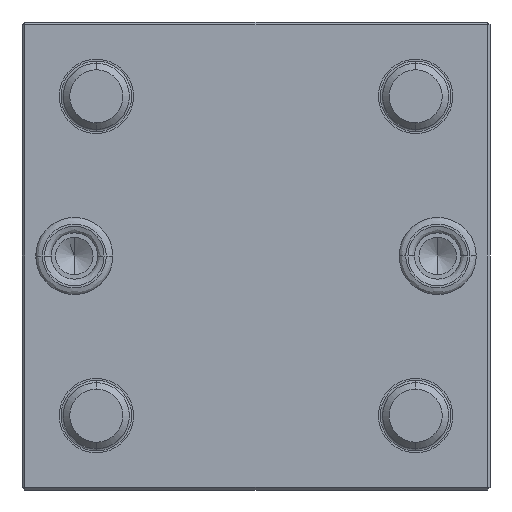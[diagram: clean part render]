
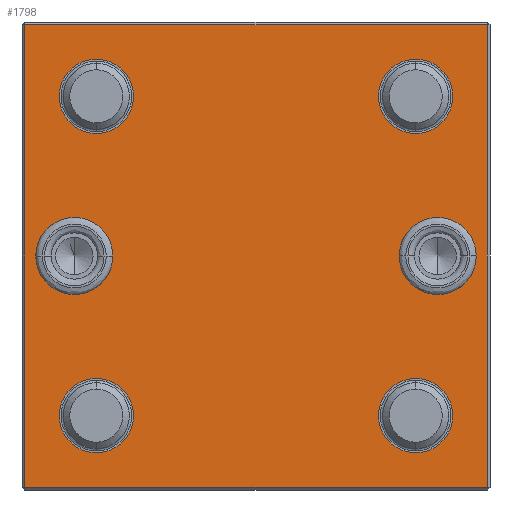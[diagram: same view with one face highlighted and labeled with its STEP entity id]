
A CAD part, front view. The second image highlights one B-rep face of the part: STEP entity #1798.
In plain terms, the highlighted planar face has unit normal (0, -1, 0).
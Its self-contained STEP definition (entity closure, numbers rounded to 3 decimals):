
#18 = CARTESIAN_POINT ( 'NONE',  ( 71.5, -15., 35.75 ) ) ;
#76 = VERTEX_POINT ( 'NONE', #6304 ) ;
#108 = VECTOR ( 'NONE', #4587, 1000. ) ;
#178 = ORIENTED_EDGE ( 'NONE', *, *, #3403, .T. ) ;
#221 = CIRCLE ( 'NONE', #972, 7. ) ;
#249 = CARTESIAN_POINT ( 'NONE',  ( 13.5, -15., 29. ) ) ;
#314 = DIRECTION ( 'NONE',  ( 0., 0., -1. ) ) ;
#383 = LINE ( 'NONE', #1085, #3954 ) ;
#423 = EDGE_LOOP ( 'NONE', ( #1466, #6946 ) ) ;
#483 = PLANE ( 'NONE',  #2465 ) ;
#506 = DIRECTION ( 'NONE',  ( 0., -1., 0. ) ) ;
#670 = CARTESIAN_POINT ( 'NONE',  ( 71.5, -15., 29. ) ) ;
#749 = CARTESIAN_POINT ( 'NONE',  ( 71.5, -15., -29. ) ) ;
#817 = CIRCLE ( 'NONE', #7178, 6.75 ) ;
#968 = DIRECTION ( 'NONE',  ( 0., 0., 1. ) ) ;
#972 = AXIS2_PLACEMENT_3D ( 'NONE', #4703, #506, #5421 ) ;
#1085 = CARTESIAN_POINT ( 'NONE',  ( 0.5, -15., -42.5 ) ) ;
#1125 = AXIS2_PLACEMENT_3D ( 'NONE', #249, #5188, #968 ) ;
#1233 = VERTEX_POINT ( 'NONE', #3576 ) ;
#1262 = CARTESIAN_POINT ( 'NONE',  ( 71.5, -15., 29. ) ) ;
#1278 = ORIENTED_EDGE ( 'NONE', *, *, #3146, .T. ) ;
#1358 = VERTEX_POINT ( 'NONE', #5187 ) ;
#1384 = DIRECTION ( 'NONE',  ( 0., 0., 1. ) ) ;
#1466 = ORIENTED_EDGE ( 'NONE', *, *, #4479, .F. ) ;
#1467 = DIRECTION ( 'NONE',  ( 0., 0., 1. ) ) ;
#1519 = AXIS2_PLACEMENT_3D ( 'NONE', #3246, #7793, #3928 ) ;
#1586 = VECTOR ( 'NONE', #7225, 1000. ) ;
#1675 = ORIENTED_EDGE ( 'NONE', *, *, #5252, .T. ) ;
#1712 = CIRCLE ( 'NONE', #4030, 7. ) ;
#1798 = ADVANCED_FACE ( 'NONE', ( #8263, #7476, #8161, #8381, #7592, #8188, #8149 ), #483, .F. ) ;
#1799 = CARTESIAN_POINT ( 'NONE',  ( 84.5, -15., 42.5 ) ) ;
#1858 = CIRCLE ( 'NONE', #6944, 6.75 ) ;
#1943 = ORIENTED_EDGE ( 'NONE', *, *, #3111, .T. ) ;
#2021 = DIRECTION ( 'NONE',  ( 0., 0., 1. ) ) ;
#2046 = VERTEX_POINT ( 'NONE', #3030 ) ;
#2049 = CARTESIAN_POINT ( 'NONE',  ( 9.5, -15., -7. ) ) ;
#2145 = VERTEX_POINT ( 'NONE', #5044 ) ;
#2155 = CARTESIAN_POINT ( 'NONE',  ( 9.5, -15., 7. ) ) ;
#2179 = CARTESIAN_POINT ( 'NONE',  ( 13.5, -15., -29. ) ) ;
#2212 = CARTESIAN_POINT ( 'NONE',  ( 9.5, -15., 0. ) ) ;
#2281 = DIRECTION ( 'NONE',  ( 0., 1., 0. ) ) ;
#2394 = CARTESIAN_POINT ( 'NONE',  ( 13.5, -15., -29. ) ) ;
#2465 = AXIS2_PLACEMENT_3D ( 'NONE', #3371, #7909, #4055 ) ;
#2540 = LINE ( 'NONE', #1799, #6094 ) ;
#2573 = DIRECTION ( 'NONE',  ( 0., 0., -1. ) ) ;
#2597 = CARTESIAN_POINT ( 'NONE',  ( 85., -15., 42. ) ) ;
#2640 = DIRECTION ( 'NONE',  ( 0., -1., 0. ) ) ;
#2704 = ORIENTED_EDGE ( 'NONE', *, *, #3191, .T. ) ;
#2709 = EDGE_CURVE ( 'NONE', #76, #7480, #817, .T. ) ;
#2793 = EDGE_CURVE ( 'NONE', #7480, #76, #1858, .T. ) ;
#2800 = CARTESIAN_POINT ( 'NONE',  ( 13.5, -15., -35.75 ) ) ;
#2882 = DIRECTION ( 'NONE',  ( 0., 0., 1. ) ) ;
#2896 = EDGE_CURVE ( 'NONE', #7768, #8483, #6198, .T. ) ;
#2903 = DIRECTION ( 'NONE',  ( 0., 0., -1. ) ) ;
#2971 = EDGE_CURVE ( 'NONE', #6676, #1233, #5659, .T. ) ;
#3030 = CARTESIAN_POINT ( 'NONE',  ( 75.5, -15., -7. ) ) ;
#3110 = DIRECTION ( 'NONE',  ( 0., 0., 1. ) ) ;
#3111 = EDGE_CURVE ( 'NONE', #7038, #6703, #2540, .T. ) ;
#3135 = EDGE_CURVE ( 'NONE', #2145, #5979, #383, .T. ) ;
#3146 = EDGE_CURVE ( 'NONE', #5979, #7038, #7596, .T. ) ;
#3191 = EDGE_CURVE ( 'NONE', #6703, #2145, #6976, .T. ) ;
#3195 = ORIENTED_EDGE ( 'NONE', *, *, #2896, .T. ) ;
#3246 = CARTESIAN_POINT ( 'NONE',  ( 13.5, -15., 29. ) ) ;
#3371 = CARTESIAN_POINT ( 'NONE',  ( 85., -15., 42.5 ) ) ;
#3376 = EDGE_CURVE ( 'NONE', #1233, #6676, #7074, .T. ) ;
#3391 = EDGE_CURVE ( 'NONE', #6835, #6257, #1712, .T. ) ;
#3403 = EDGE_CURVE ( 'NONE', #8483, #7768, #5204, .T. ) ;
#3416 = CARTESIAN_POINT ( 'NONE',  ( 0.5, -15., -42. ) ) ;
#3576 = CARTESIAN_POINT ( 'NONE',  ( 13.5, -15., -22.25 ) ) ;
#3623 = EDGE_CURVE ( 'NONE', #4103, #1358, #5096, .T. ) ;
#3714 = EDGE_CURVE ( 'NONE', #6058, #2046, #221, .T. ) ;
#3737 = CARTESIAN_POINT ( 'NONE',  ( 71.5, -15., -35.75 ) ) ;
#3928 = DIRECTION ( 'NONE',  ( 0., 0., 1. ) ) ;
#3933 = AXIS2_PLACEMENT_3D ( 'NONE', #749, #5663, #1467 ) ;
#3954 = VECTOR ( 'NONE', #2573, 1000. ) ;
#4011 = ORIENTED_EDGE ( 'NONE', *, *, #5414, .F. ) ;
#4030 = AXIS2_PLACEMENT_3D ( 'NONE', #2212, #6839, #2903 ) ;
#4055 = DIRECTION ( 'NONE',  ( 0., 0., 1. ) ) ;
#4093 = AXIS2_PLACEMENT_3D ( 'NONE', #2179, #6807, #2882 ) ;
#4096 = EDGE_LOOP ( 'NONE', ( #6246, #1675 ) ) ;
#4103 = VERTEX_POINT ( 'NONE', #5186 ) ;
#4283 = CARTESIAN_POINT ( 'NONE',  ( 84.5, -15., -42. ) ) ;
#4479 = EDGE_CURVE ( 'NONE', #2046, #6058, #5290, .T. ) ;
#4533 = DIRECTION ( 'NONE',  ( 0., -1., 0. ) ) ;
#4587 = DIRECTION ( 'NONE',  ( 1., 0., 0. ) ) ;
#4703 = CARTESIAN_POINT ( 'NONE',  ( 75.5, -15., 0. ) ) ;
#4749 = ORIENTED_EDGE ( 'NONE', *, *, #2793, .T. ) ;
#4811 = AXIS2_PLACEMENT_3D ( 'NONE', #8377, #4533, #314 ) ;
#4977 = ORIENTED_EDGE ( 'NONE', *, *, #3135, .T. ) ;
#5044 = CARTESIAN_POINT ( 'NONE',  ( 0.5, -15., 42. ) ) ;
#5096 = CIRCLE ( 'NONE', #1519, 6.75 ) ;
#5186 = CARTESIAN_POINT ( 'NONE',  ( 13.5, -15., 35.75 ) ) ;
#5187 = CARTESIAN_POINT ( 'NONE',  ( 13.5, -15., 22.25 ) ) ;
#5188 = DIRECTION ( 'NONE',  ( 0., 1., 0. ) ) ;
#5204 = CIRCLE ( 'NONE', #3933, 6.75 ) ;
#5252 = EDGE_CURVE ( 'NONE', #1358, #4103, #8232, .T. ) ;
#5290 = CIRCLE ( 'NONE', #4811, 7. ) ;
#5310 = DIRECTION ( 'NONE',  ( 0., 0., 1. ) ) ;
#5414 = EDGE_CURVE ( 'NONE', #6257, #6835, #7022, .T. ) ;
#5421 = DIRECTION ( 'NONE',  ( 0., 0., -1. ) ) ;
#5587 = DIRECTION ( 'NONE',  ( 0., 1., 0. ) ) ;
#5659 = CIRCLE ( 'NONE', #6324, 6.75 ) ;
#5663 = DIRECTION ( 'NONE',  ( 0., 1., 0. ) ) ;
#5684 = EDGE_LOOP ( 'NONE', ( #4749, #6137 ) ) ;
#5782 = AXIS2_PLACEMENT_3D ( 'NONE', #6620, #2640, #7263 ) ;
#5979 = VERTEX_POINT ( 'NONE', #3416 ) ;
#6058 = VERTEX_POINT ( 'NONE', #7979 ) ;
#6065 = DIRECTION ( 'NONE',  ( 0., 1., 0. ) ) ;
#6094 = VECTOR ( 'NONE', #5310, 1000. ) ;
#6120 = EDGE_LOOP ( 'NONE', ( #178, #3195 ) ) ;
#6137 = ORIENTED_EDGE ( 'NONE', *, *, #2709, .T. ) ;
#6198 = CIRCLE ( 'NONE', #6591, 6.75 ) ;
#6246 = ORIENTED_EDGE ( 'NONE', *, *, #3623, .T. ) ;
#6257 = VERTEX_POINT ( 'NONE', #2049 ) ;
#6284 = CARTESIAN_POINT ( 'NONE',  ( 71.5, -15., -29. ) ) ;
#6304 = CARTESIAN_POINT ( 'NONE',  ( 71.5, -15., 22.25 ) ) ;
#6324 = AXIS2_PLACEMENT_3D ( 'NONE', #2394, #7016, #3110 ) ;
#6553 = CARTESIAN_POINT ( 'NONE',  ( 85., -15., -42. ) ) ;
#6591 = AXIS2_PLACEMENT_3D ( 'NONE', #6284, #2281, #6903 ) ;
#6620 = CARTESIAN_POINT ( 'NONE',  ( 9.5, -15., 0. ) ) ;
#6626 = EDGE_LOOP ( 'NONE', ( #4011, #7829 ) ) ;
#6676 = VERTEX_POINT ( 'NONE', #2800 ) ;
#6703 = VERTEX_POINT ( 'NONE', #8062 ) ;
#6807 = DIRECTION ( 'NONE',  ( 0., 1., 0. ) ) ;
#6835 = VERTEX_POINT ( 'NONE', #2155 ) ;
#6839 = DIRECTION ( 'NONE',  ( 0., -1., 0. ) ) ;
#6903 = DIRECTION ( 'NONE',  ( 0., 0., 1. ) ) ;
#6944 = AXIS2_PLACEMENT_3D ( 'NONE', #670, #5587, #1384 ) ;
#6946 = ORIENTED_EDGE ( 'NONE', *, *, #3714, .F. ) ;
#6976 = LINE ( 'NONE', #2597, #1586 ) ;
#7016 = DIRECTION ( 'NONE',  ( 0., 1., 0. ) ) ;
#7022 = CIRCLE ( 'NONE', #5782, 7. ) ;
#7038 = VERTEX_POINT ( 'NONE', #4283 ) ;
#7074 = CIRCLE ( 'NONE', #4093, 6.75 ) ;
#7178 = AXIS2_PLACEMENT_3D ( 'NONE', #1262, #6065, #2021 ) ;
#7225 = DIRECTION ( 'NONE',  ( -1., 0., 0. ) ) ;
#7263 = DIRECTION ( 'NONE',  ( 0., 0., -1. ) ) ;
#7476 = FACE_BOUND ( 'NONE', #423, .T. ) ;
#7480 = VERTEX_POINT ( 'NONE', #18 ) ;
#7533 = EDGE_LOOP ( 'NONE', ( #7926, #8318 ) ) ;
#7592 = FACE_BOUND ( 'NONE', #7533, .T. ) ;
#7596 = LINE ( 'NONE', #6553, #108 ) ;
#7717 = CARTESIAN_POINT ( 'NONE',  ( 71.5, -15., -22.25 ) ) ;
#7768 = VERTEX_POINT ( 'NONE', #3737 ) ;
#7793 = DIRECTION ( 'NONE',  ( 0., 1., 0. ) ) ;
#7829 = ORIENTED_EDGE ( 'NONE', *, *, #3391, .F. ) ;
#7909 = DIRECTION ( 'NONE',  ( 0., 1., 0. ) ) ;
#7926 = ORIENTED_EDGE ( 'NONE', *, *, #3376, .T. ) ;
#7979 = CARTESIAN_POINT ( 'NONE',  ( 75.5, -15., 7. ) ) ;
#8062 = CARTESIAN_POINT ( 'NONE',  ( 84.5, -15., 42. ) ) ;
#8149 = FACE_BOUND ( 'NONE', #5684, .T. ) ;
#8161 = FACE_BOUND ( 'NONE', #6626, .T. ) ;
#8188 = FACE_BOUND ( 'NONE', #6120, .T. ) ;
#8232 = CIRCLE ( 'NONE', #1125, 6.75 ) ;
#8263 = FACE_OUTER_BOUND ( 'NONE', #8297, .T. ) ;
#8297 = EDGE_LOOP ( 'NONE', ( #4977, #1278, #1943, #2704 ) ) ;
#8318 = ORIENTED_EDGE ( 'NONE', *, *, #2971, .T. ) ;
#8377 = CARTESIAN_POINT ( 'NONE',  ( 75.5, -15., 0. ) ) ;
#8381 = FACE_BOUND ( 'NONE', #4096, .T. ) ;
#8483 = VERTEX_POINT ( 'NONE', #7717 ) ;
